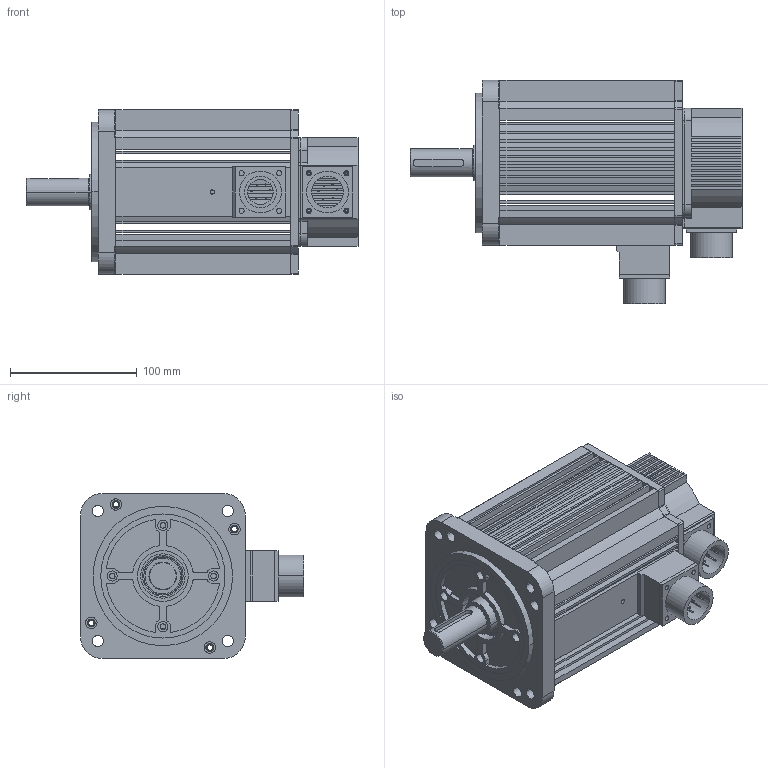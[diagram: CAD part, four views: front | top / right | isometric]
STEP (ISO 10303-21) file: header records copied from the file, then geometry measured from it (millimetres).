
FILE_DESCRIPTION (( 'STEP AP203' ), '1' );
FILE_NAME ('MS-130STE-M07725B-42P0.STEP', '2019-12-13T07:16:46', ( '' ), ( '' ), 'SwSTEP 2.0', 'SolidWorks 2016', '' );
FILE_SCHEMA (( 'CONFIG_CONTROL_DESIGN' ));
Length unit declared in the file: millimetre
Products named in the file (1): MS-130STE-M07725B-42P0
Bounding box: 262 x 176 x 130 mm (x, y, z)
Surface area: 209619.6 mm2 (no closed solid volume)
Topology: 0 solids, 35 shells, 614 faces, 1821 edges, 1256 vertices
Faces by surface type: plane 360, cylinder 250, cone 2, torus 2
Entity records: 20660 total; most frequent: CARTESIAN_POINT 3807, DIRECTION 3631, ORIENTED_EDGE 3164, EDGE_CURVE 1821, VERTEX_POINT 1256, LINE 1231, VECTOR 1231, AXIS2_PLACEMENT_3D 1200
